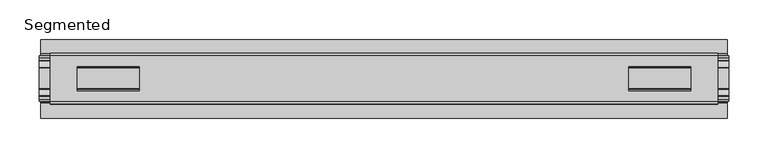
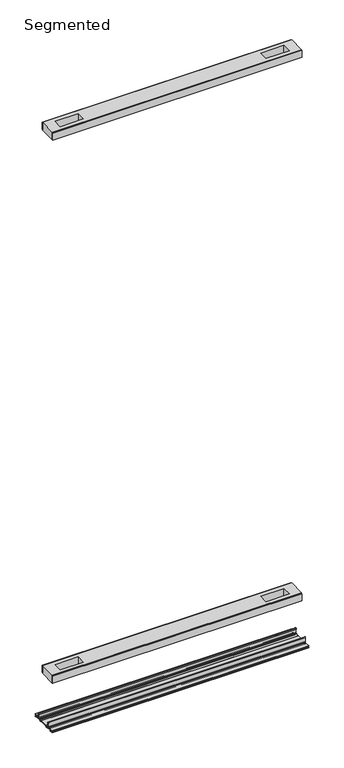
"""IFC4 building model written with IfcOpenShell, lengths in millimetres: proxy geometry, Frame-Teknion-FHCRA-Horizontal_Rail-R2022 : Segmented."""

from ifc_helpers import new_model, si_unit, point, frame, frame_2d, origin, place, context, project, spatial, polyline, circle_curve, trimmed, segment, composite_curve, outline, extrude, source, transform, mapped, element, save


def segmented_b95eeb09(model_context):
    return source(origin(), model_context, "Body", "SweptSolid", [
        extrude(outline(polyline([(425.0650989, -29.0068005), (425.0650989, -32.1817997), (-425.0650989, -32.1817997), (-425.0650989, -29.0068005), (425.0650989, -29.0068005)])), frame((0.0, 0.0, 2107.0117561), z_axis=(0.0, 0.0, 1.0), x_axis=(1.0, 0.0, 0.0)), (0.0, 0.0, 1.0), 25.3999939),
        extrude(outline(polyline([(425.0650989, 32.1817997), (425.0650989, 29.0068005), (-425.0650989, 29.0068005), (-425.0650989, 32.1817997), (425.0650989, 32.1817997)])), frame((0.0, 0.0, 2107.0117561), z_axis=(0.0, 0.0, 1.0), x_axis=(1.0, 0.0, 0.0)), (0.0, 0.0, 1.0), 25.3999939),
        extrude(outline(polyline([(425.0650989, 29.0068005), (425.0650989, -29.0068005), (-425.0650989, -29.0068005), (-425.0650989, 29.0068005), (425.0650989, 29.0068005)]), holes=[polyline([(390.6480863, 15.1130038), (311.6032744, 15.1130038), (311.6032744, -15.875003), (390.6480863, -15.875003), (390.6480863, 15.1130038)]), polyline([(-390.6480863, 15.1130038), (-390.6480863, -15.875003), (-311.6032744, -15.875003), (-311.6032744, 15.1130038), (-390.6480863, 15.1130038)])]), frame((0.0, 0.0, 2105.5901786), z_axis=(0.0, 0.0, 1.0), x_axis=(1.0, 0.0, 0.0)), (0.0, 0.0, 1.0), 27.9999988),
        extrude(outline(polyline([(425.0650989, -29.0068005), (425.0650989, -32.1817997), (-425.0650989, -32.1817997), (-425.0650989, -29.0068005), (425.0650989, -29.0068005)])), frame((0.0, 0.0, 149.8401622), z_axis=(0.0, 0.0, 1.0), x_axis=(1.0, 0.0, 0.0)), (0.0, 0.0, 1.0), 25.3999939),
        extrude(outline(polyline([(425.0650989, 32.1817997), (425.0650989, 29.0068005), (-425.0650989, 29.0068005), (-425.0650989, 32.1817997), (425.0650989, 32.1817997)])), frame((0.0, 0.0, 149.8401622), z_axis=(0.0, 0.0, 1.0), x_axis=(1.0, 0.0, 0.0)), (0.0, 0.0, 1.0), 25.3999939),
        extrude(outline(polyline([(425.0650989, 29.0068005), (425.0650989, -29.0068005), (-425.0650989, -29.0068005), (-425.0650989, 29.0068005), (425.0650989, 29.0068005)]), holes=[polyline([(390.6480863, 15.1130038), (311.6032744, 15.1130038), (311.6032744, -15.875003), (390.6480863, -15.875003), (390.6480863, 15.1130038)]), polyline([(-390.6480863, 15.1130038), (-390.6480863, -15.875003), (-311.6032744, -15.875003), (-311.6032744, 15.1130038), (-390.6480863, 15.1130038)])]), frame((0.0, 0.0, 148.4185847), z_axis=(0.0, 0.0, 1.0), x_axis=(1.0, 0.0, 0.0)), (0.0, 0.0, 1.0), 27.9999988),
        extrude(outline(composite_curve([segment(polyline([(-28.8162961, -7.7516037), (-28.8162961, 9.8607558)]), True, "CONTINUOUS"), segment(trimmed(circle_curve(frame_2d((-27.5970982, 9.8607558)), 1.2191979), [point((-28.8162961, 9.8607558))], [point((-26.3779003, 9.8607558))], False, "CARTESIAN"), True, "CONTINUOUS"), segment(polyline([(-26.3779003, 9.8607558), (-26.3779003, 5.9999563), (-27.6580769, 5.9999563), (-27.6580769, -7.7516037)]), True, "CONTINUOUS"), segment(trimmed(circle_curve(frame_2d((-26.6420561, -7.7516037)), 1.0160208), [point((-27.6580769, -7.7516037))], [point((-26.6485732, -8.7676036))], True, "CARTESIAN"), True, "CONTINUOUS"), segment(polyline([(-26.6485732, -8.7676036), (-22.7056226, -8.7676036), (-21.7922609, -8.968753)]), True, "CONTINUOUS"), segment(trimmed(circle_curve(frame_2d((-17.7673021, -6.1259382)), 4.9276657), [point((-21.7922609, -8.968753))], [point((-13.7423434, -8.968753))], True, "CARTESIAN"), True, "CONTINUOUS"), segment(polyline([(-13.7423434, -8.968753), (-12.8289726, -8.7676036), (13.2099722, -8.7676036), (14.123343, -8.968753)]), True, "CONTINUOUS"), segment(trimmed(circle_curve(frame_2d((18.1483018, -6.1259382)), 4.9276657), [point((14.123343, -8.968753))], [point((22.1732605, -8.968753))], True, "CARTESIAN"), True, "CONTINUOUS"), segment(polyline([(22.1732605, -8.968753), (23.0866222, -8.7676036), (27.0295728, -8.7676036)]), True, "CONTINUOUS"), segment(trimmed(circle_curve(frame_2d((27.0230557, -7.7516037)), 1.0160208), [point((27.0295728, -8.7676036))], [point((28.0390765, -7.7516037))], True, "CARTESIAN"), True, "CONTINUOUS"), segment(polyline([(28.0390765, -7.7516037), (28.0390765, 5.9999563), (26.7588999, 5.9999563), (26.7588999, 9.8607558)]), True, "CONTINUOUS"), segment(trimmed(circle_curve(frame_2d((27.9780978, 9.8607558)), 1.2191979), [point((26.7588999, 9.8607558))], [point((29.1972958, 9.8607558))], False, "CARTESIAN"), True, "CONTINUOUS"), segment(polyline([(29.1972958, 9.8607558), (29.1972958, -7.7516037)]), True, "CONTINUOUS"), segment(trimmed(circle_curve(frame_2d((27.0230557, -7.7516037)), 2.17424), [point((29.1972958, -7.7516037))], [point((27.0230557, -9.9258438))], False, "CARTESIAN"), True, "CONTINUOUS"), segment(polyline([(27.0230557, -9.9258438), (22.732069, -9.9258438)]), True, "CONTINUOUS"), segment(trimmed(circle_curve(frame_2d((18.1516545, -6.4800016)), 5.7318431), [point((22.732069, -9.9258438))], [point((13.57124, -9.9258438))], False, "CARTESIAN"), True, "CONTINUOUS"), segment(polyline([(13.57124, -9.9258438), (-13.1902404, -9.9258438)]), True, "CONTINUOUS"), segment(trimmed(circle_curve(frame_2d((-17.7706549, -6.4800016)), 5.7318431), [point((-13.1902404, -9.9258438))], [point((-22.3510694, -9.9258438))], False, "CARTESIAN"), True, "CONTINUOUS"), segment(polyline([(-22.3510694, -9.9258438), (-26.6420561, -9.9258438)]), True, "CONTINUOUS"), segment(trimmed(circle_curve(frame_2d((-26.6420561, -7.7516037)), 2.17424), [point((-26.6420561, -9.9258438))], [point((-28.8162961, -7.7516037))], False, "CARTESIAN"), True, "CONTINUOUS")], self_intersect=False)), frame((-439.1239898, 0.0, 0.0), z_axis=(1.0, 0.0, 0.0), x_axis=(0.0, 1.0, 0.0)), (0.0, 0.0, 1.0), 878.2479795),
        extrude(outline(composite_curve([segment(polyline([(-50.2668422, -13.9898438), (-50.2240211, -12.3388438), (-39.7827507, -12.3388438), (-39.7827507, -7.766844), (-50.2240211, -7.766844), (-50.2668422, -6.1158439), (-31.1784975, -6.1158439)]), True, "CONTINUOUS"), segment(trimmed(circle_curve(frame_2d((-31.1784975, -7.6398436)), 1.5239997), [point((-31.1784975, -6.1158439))], [point((-29.6544978, -7.6398436))], False, "CARTESIAN"), True, "CONTINUOUS"), segment(polyline([(-29.6544978, -7.6398436), (-29.6544978, -9.9258438), (-23.1058344, -9.9258438)]), True, "CONTINUOUS"), segment(trimmed(circle_curve(frame_2d((-17.7673021, -5.2268471)), 7.1119966), [point((-23.1058344, -9.9258438))], [point((-12.4287699, -9.9258438))], True, "CARTESIAN"), True, "CONTINUOUS"), segment(polyline([(-12.4287699, -9.9258438), (12.8097695, -9.9258438)]), True, "CONTINUOUS"), segment(trimmed(circle_curve(frame_2d((18.1483018, -5.2268471)), 7.1119966), [point((12.8097695, -9.9258438))], [point((23.486834, -9.9258438))], True, "CARTESIAN"), True, "CONTINUOUS"), segment(polyline([(23.486834, -9.9258438), (30.0354975, -9.9258438), (30.0354975, -7.7656583)]), True, "CONTINUOUS"), segment(trimmed(circle_curve(frame_2d((31.6864982, -7.7656583)), 1.6510007), [point((30.0354975, -7.7656583))], [point((31.6239218, -6.1158439))], False, "CARTESIAN"), True, "CONTINUOUS"), segment(polyline([(31.6239218, -6.1158439), (50.00625, -6.1158439), (50.00625, -7.766844), (40.1637503, -7.766844), (40.1637503, -12.3388438), (50.00625, -12.3388438), (50.00625, -13.9898438), (40.0367518, -13.9898438)]), True, "CONTINUOUS"), segment(trimmed(circle_curve(frame_2d((40.0367518, -12.4658438)), 1.524), [point((40.0367518, -13.9898438))], [point((38.5127519, -12.4658438))], False, "CARTESIAN"), True, "CONTINUOUS"), segment(polyline([(38.5127519, -12.4658438), (38.5127519, -7.766844), (31.686497, -7.766844), (31.686497, -10.0528438)]), True, "CONTINUOUS"), segment(trimmed(circle_curve(frame_2d((30.1624971, -10.0528438)), 1.524), [point((31.686497, -10.0528438))], [point((30.1624971, -11.5768438))], False, "CARTESIAN"), True, "CONTINUOUS"), segment(polyline([(30.1624971, -11.5768438), (23.6563549, -11.5768438)]), True, "CONTINUOUS"), segment(trimmed(circle_curve(frame_2d((18.1483018, -6.4968436)), 7.4930002), [point((23.6563549, -11.5768438))], [point((12.8904968, -11.8354331))], False, "CARTESIAN"), True, "CONTINUOUS"), segment(polyline([(12.8904968, -11.8354331), (-12.5094972, -11.8354331)]), True, "CONTINUOUS"), segment(trimmed(circle_curve(frame_2d((-17.7673021, -6.4968436)), 7.4930002), [point((-12.5094972, -11.8354331))], [point((-23.2753553, -11.5768438))], False, "CARTESIAN"), True, "CONTINUOUS"), segment(polyline([(-23.2753553, -11.5768438), (-29.7814974, -11.5768438)]), True, "CONTINUOUS"), segment(trimmed(circle_curve(frame_2d((-29.7814974, -10.0528438)), 1.524), [point((-29.7814974, -11.5768438))], [point((-31.3054974, -10.0528438))], False, "CARTESIAN"), True, "CONTINUOUS"), segment(polyline([(-31.3054974, -10.0528438), (-31.3054974, -7.766844), (-38.1317522, -7.766844), (-38.1317522, -12.4658438)]), True, "CONTINUOUS"), segment(trimmed(circle_curve(frame_2d((-39.6557522, -12.4658438)), 1.524), [point((-38.1317522, -12.4658438))], [point((-39.6557522, -13.9898438))], False, "CARTESIAN"), True, "CONTINUOUS"), segment(polyline([(-39.6557522, -13.9898438), (-50.2668422, -13.9898438)]), True, "CONTINUOUS")], self_intersect=False)), frame((-437.4729898, 0.0, 0.0), z_axis=(1.0, 0.0, 0.0), x_axis=(0.0, 1.0, 0.0)), (0.0, 0.0, 1.0), 874.9459795),
    ])


if __name__ == "__main__":
    model = new_model("IFC4")
    model_context = context("Model", 3, world=origin())
    ifc_project = project(units=[si_unit("LENGTHUNIT", "METRE", prefix="MILLI")], contexts=[model_context])
    site = spatial("IfcSite", under=ifc_project)
    building = spatial("IfcBuilding", under=site)
    placement = place(None, origin())
    segmented_shape = segmented_b95eeb09(model_context)
    element("IfcBuildingElementProxy", 1, Name="Frame-Teknion-FHCRA-Horizontal_Rail-R2022 : Segmented", ObjectType="Frame-Teknion-FHCRA-Horizontal_Rail-R2022 : Segmented", at=placement, inside=building, context=model_context, shape_type="MappedRepresentation", body=[
        mapped(segmented_shape, transform((0.0, 0.0, 0.0), x_axis=(1.0, 0.0, 0.0), y_axis=(0.0, 1.0, 0.0), z_axis=(0.0, 0.0, 1.0))),
    ])
    save(model, "model.ifc")
